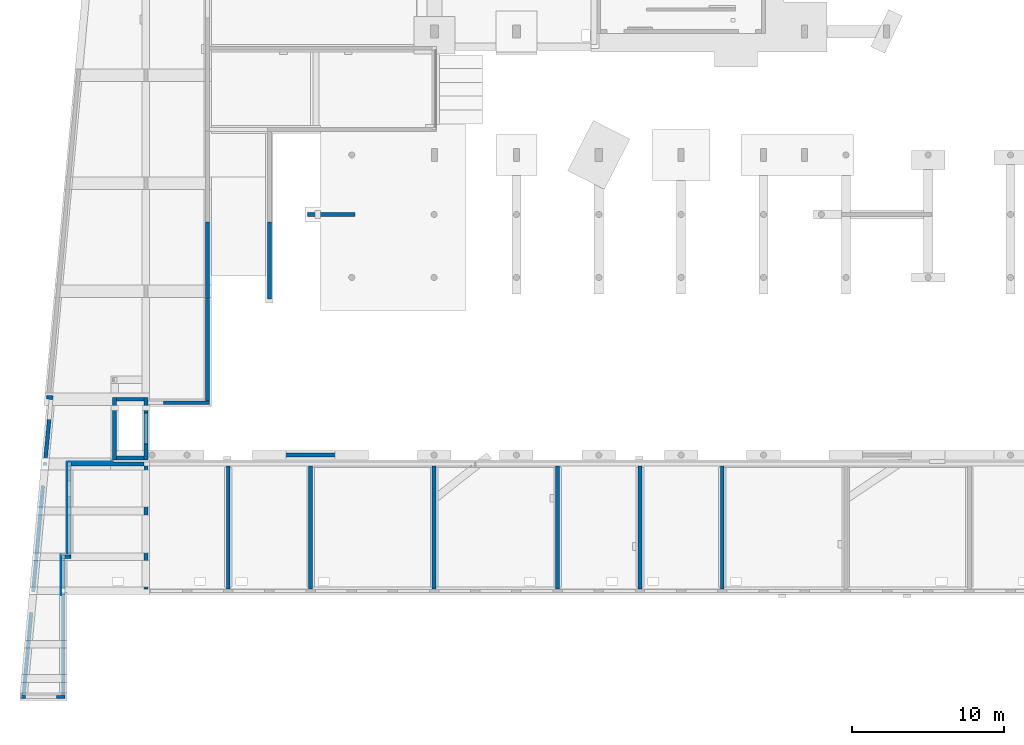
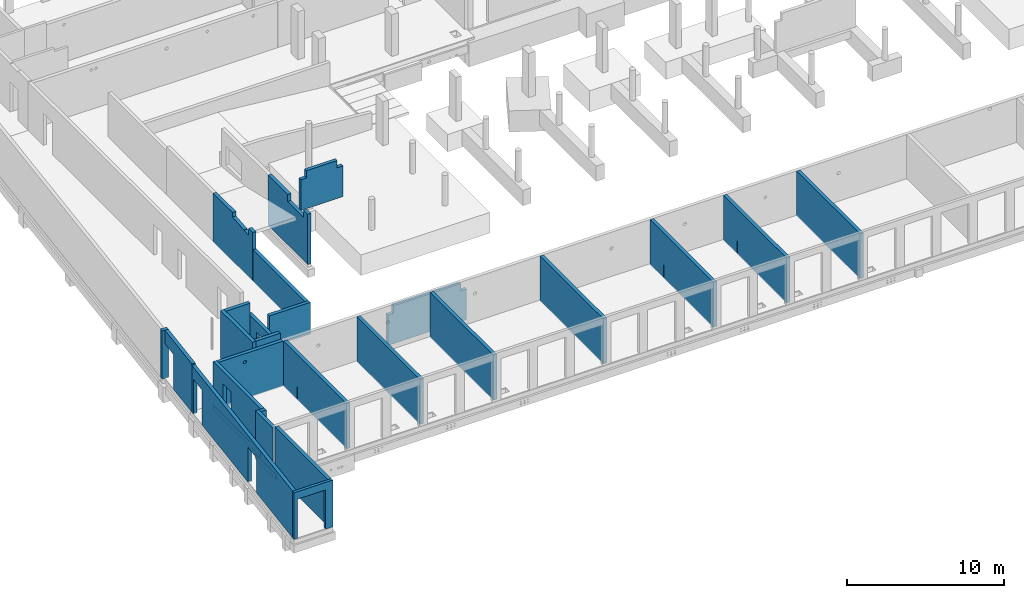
# One storey, part 38 of 60: 29 walls, 22 openings.
"""IFC2X3 building model written with IfcOpenShell, lengths in millimetres."""

from ifc_helpers import new_model, entity, si_unit, converted_unit, derived_unit, direction, frame, frame_2d, origin, place, context, subcontext, project, spatial, polyline, rectangle, circle, outline, extrude, material, layer, layer_set, layer_usage, type_object, element, save


model = new_model("IFC2X3")

# Units and contexts
model_context = context("Model", 3, precision=0.01, world=origin(), true_north=direction((6.12303176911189e-17, 1.0)))
body_context = subcontext(model_context, "Body", "Model", "MODEL_VIEW")
ifc_project = project(units=[si_unit("LENGTHUNIT", "METRE", prefix="MILLI"), si_unit("AREAUNIT", "SQUARE_METRE"), si_unit("VOLUMEUNIT", "CUBIC_METRE"), converted_unit("PLANEANGLEUNIT", "DEGREE", entity("IfcRatioMeasure", 0.0174532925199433), si_unit("PLANEANGLEUNIT", "RADIAN"), dimensions=[0, 0, 0, 0, 0, 0, 0]), si_unit("MASSUNIT", "GRAM", prefix="KILO"), derived_unit("MASSDENSITYUNIT", [(si_unit("MASSUNIT", "GRAM", prefix="KILO"), 1), (si_unit("LENGTHUNIT", "METRE"), -3)]), si_unit("TIMEUNIT", "SECOND"), si_unit("FREQUENCYUNIT", "HERTZ"), si_unit("THERMODYNAMICTEMPERATUREUNIT", "DEGREE_CELSIUS"), derived_unit("THERMALTRANSMITTANCEUNIT", [(si_unit("MASSUNIT", "GRAM", prefix="KILO"), 1), (si_unit("THERMODYNAMICTEMPERATUREUNIT", "KELVIN"), -1), (si_unit("TIMEUNIT", "SECOND"), -3)]), derived_unit("VOLUMETRICFLOWRATEUNIT", [(si_unit("LENGTHUNIT", "METRE"), 3), (si_unit("TIMEUNIT", "SECOND"), -1)]), si_unit("ELECTRICCURRENTUNIT", "AMPERE"), si_unit("ELECTRICVOLTAGEUNIT", "VOLT"), si_unit("POWERUNIT", "WATT"), si_unit("FORCEUNIT", "NEWTON", prefix="KILO"), si_unit("ILLUMINANCEUNIT", "LUX"), si_unit("LUMINOUSFLUXUNIT", "LUMEN"), si_unit("LUMINOUSINTENSITYUNIT", "CANDELA"), derived_unit("USERDEFINED", [(si_unit("MASSUNIT", "GRAM", prefix="KILO"), -1), (si_unit("LENGTHUNIT", "METRE"), -2), (si_unit("TIMEUNIT", "SECOND"), 3), (si_unit("LUMINOUSFLUXUNIT", "LUMEN"), 1)]), derived_unit("LINEARVELOCITYUNIT", [(si_unit("LENGTHUNIT", "METRE"), 1), (si_unit("TIMEUNIT", "SECOND"), -1)]), si_unit("PRESSUREUNIT", "PASCAL"), derived_unit("USERDEFINED", [(si_unit("LENGTHUNIT", "METRE"), -2), (si_unit("MASSUNIT", "GRAM", prefix="KILO"), 1), (si_unit("TIMEUNIT", "SECOND"), -2)])], contexts=[model_context])

# Site, building, storey
site_placement = place(None, origin())
site = spatial("IfcSite", under=ifc_project, at=site_placement, Name="Default", CompositionType="ELEMENT")
building_placement = place(site_placement, origin())
building = spatial("IfcBuilding", under=site, at=building_placement, Name="niet gebruiken", CompositionType="ELEMENT")
storey_placement = place(building_placement, origin())
storey = spatial("IfcBuildingStorey", under=building, at=storey_placement, Name="00 begane grond", CompositionType="ELEMENT", Elevation=0.0)

# Wall, opening
ifc_material_1 = material(Name="NLRS_f2_beton ihwg")
ifc_layer_1 = layer(ifc_material_1, 250.0)
ifc_layer_set_1 = layer_set([ifc_layer_1], Name="Basic Wall:NLRS_22.21_WA_beton ihwg d=250_gen")
ifc_layer_usage_1 = layer_usage(ifc_layer_set_1, "AXIS2", "NEGATIVE", 125.0)
wall_type_1 = type_object("IfcWallType", Name="Basic Wall:NLRS_22.21_WA_beton ihwg d=250_gen", PredefinedType="STANDARD", material=ifc_layer_set_1)
wall_1_placement = place(storey_placement, frame((8100.0, 8496.0, -160.0), z_axis=(0.0, 0.0, 1.0), x_axis=(0.0, -1.0, 0.0)))
wall_1 = element("IfcWallStandardCase", 1, at=wall_1_placement, inside=storey, type_object=wall_type_1, material=ifc_layer_usage_1, Name="Basic Wall:NLRS_22.21_WA_beton ihwg d=250_gen", ObjectType="Basic Wall:NLRS_22.21_WA_beton ihwg d=250_gen", context=body_context, shape_type="SweptSolid", body=[
    extrude(rectangle(XDim=8075.9999999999, YDim=249.999999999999, at=frame_2d((4037.99999999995, 0.0), x_axis=(-1.0, 0.0))), origin(), (0.0, 0.0, 1.0), 3510.00000000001),
])
opening_1_placement = place(wall_1_placement, origin())
element("IfcOpeningElement", 2, at=opening_1_placement, cuts=wall_1, Name="Basic Wall:NLRS_22.21_WA_beton ihwg d=250_gen", ObjectType="Recess", context=body_context, shape_type="SweptSolid", body=[
    extrude(rectangle(XDim=940.0, YDim=50.0000000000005, at=frame_2d((0.0, 5.41788836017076e-13), x_axis=(1.0, 0.0))), frame((1750.0, -125.0, 540.0), z_axis=(0.0, 1.0, 0.0), x_axis=(0.0, 0.0, -1.0)), (0.0, 0.0, 1.0), 40.0000000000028),
])

ifc_layer_usage_2 = layer_usage(ifc_layer_set_1, "AXIS2", "NEGATIVE", 125.0)
wall_2_placement = place(storey_placement, frame((3200.0, 8621.0, -160.0)))
wall_2 = element("IfcWallStandardCase", 3, at=wall_2_placement, inside=storey, type_object=wall_type_1, material=ifc_layer_usage_2, Name="Basic Wall:NLRS_22.21_WA_beton ihwg d=250_gen", ObjectType="Basic Wall:NLRS_22.21_WA_beton ihwg d=250_gen", context=body_context, shape_type="SweptSolid", body=[
    extrude(rectangle(XDim=4775.0, YDim=249.999999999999, at=frame_2d((2387.5, -1.06581410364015e-13), x_axis=(-1.0, 0.0))), origin(), (0.0, 0.0, 1.0), 3510.00000000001),
])
opening_2_placement = place(wall_2_placement, origin())
element("IfcOpeningElement", 4, at=opening_2_placement, cuts=wall_2, Name="Basic Wall:NLRS_22.21_WA_beton ihwg d=250_gen", ObjectType="Opening", context=body_context, shape_type="SweptSolid", body=[
    extrude(circle(Radius=125.0, at=frame_2d((0.0, -5.41433564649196e-13), x_axis=(1.0, 0.0))), frame((1940.0, -125.0, 2860.0), z_axis=(0.0, 1.0, 0.0), x_axis=(1.0, 0.0, 0.0)), (0.0, 0.0, 1.0), 249.999999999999),
])

ifc_layer_usage_3 = layer_usage(ifc_layer_set_1, "AXIS2", "NEGATIVE", 125.0)
wall_3_placement = place(storey_placement, frame((3075.0, 8746.0, -160.0), z_axis=(0.0, 0.0, 1.0), x_axis=(0.0, -1.0, 0.0)))
wall_3 = element("IfcWallStandardCase", 5, at=wall_3_placement, inside=storey, type_object=wall_type_1, material=ifc_layer_usage_3, Name="Basic Wall:NLRS_22.21_WA_beton ihwg d=250_gen", ObjectType="Basic Wall:NLRS_22.21_WA_beton ihwg d=250_gen", context=body_context, shape_type="SweptSolid", body=[
    extrude(rectangle(XDim=6086.00000000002, YDim=250.000000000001, at=frame_2d((3043.00000000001, -1.70530256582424e-13), x_axis=(-1.0, 0.0))), origin(), (0.0, 0.0, 1.0), 3510.00000000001),
])
opening_3_placement = place(wall_3_placement, origin())
element("IfcOpeningElement", 6, at=opening_3_placement, cuts=wall_3, Name="Basic Wall:NLRS_22.21_WA_beton ihwg d=250_gen", ObjectType="Opening", context=body_context, shape_type="SweptSolid", body=[
    extrude(rectangle(XDim=2470.0, YDim=1006.0, at=frame_2d((0.0, 5.40012479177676e-13), x_axis=(1.0, 0.0))), frame((1747.0, -1649.0, 1305.0), z_axis=(0.0, 1.0, 0.0), x_axis=(0.0, 0.0, 1.0)), (0.0, 0.0, 1.0), 3048.0),
])

# Walls
ifc_layer_usage_4 = layer_usage(ifc_layer_set_1, "AXIS2", "NEGATIVE", 125.0)
wall_4_placement = place(storey_placement, frame((3200.0, 2535.0, -160.0), z_axis=(0.0, 0.0, 1.0), x_axis=(-1.0, 0.0, 0.0)))
element("IfcWallStandardCase", 7, at=wall_4_placement, inside=storey, type_object=wall_type_1, material=ifc_layer_usage_4, Name="Basic Wall:NLRS_22.21_WA_beton ihwg d=250_gen", ObjectType="Basic Wall:NLRS_22.21_WA_beton ihwg d=250_gen", context=body_context, shape_type="SweptSolid", body=[
    extrude(rectangle(XDim=399.99999999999, YDim=249.999999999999, at=frame_2d((199.999999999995, 2.8421709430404e-14), x_axis=(-1.0, 0.0))), origin(), (0.0, 0.0, 1.0), 3510.00000000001),
])
ifc_layer_usage_5 = layer_usage(ifc_layer_set_1, "AXIS2", "NEGATIVE", 125.0)
wall_5_placement = place(storey_placement, frame((2675.0, 2660.0, -160.0), z_axis=(0.0, 0.0, 1.0), x_axis=(0.0, -1.0, 0.0)))
element("IfcWallStandardCase", 8, at=wall_5_placement, inside=storey, type_object=wall_type_1, material=ifc_layer_usage_5, Name="Basic Wall:NLRS_22.21_WA_beton ihwg d=250_gen", ObjectType="Basic Wall:NLRS_22.21_WA_beton ihwg d=250_gen", context=body_context, shape_type="SweptSolid", body=[
    extrude(rectangle(XDim=2239.99999999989, YDim=249.999999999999, at=frame_2d((1119.99999999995, 4.9737991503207e-14), x_axis=(-1.0, 0.0))), origin(), (0.0, 0.0, 1.0), 3510.00000000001),
])

# Wall, openings
ifc_layer_usage_6 = layer_usage(ifc_layer_set_1, "AXIS2", "NEGATIVE", 125.0)
wall_6_placement = place(storey_placement, frame((13500.0, 8496.0, -160.0), z_axis=(0.0, 0.0, 1.0), x_axis=(0.0, -1.0, 0.0)))
wall_6 = element("IfcWallStandardCase", 9, at=wall_6_placement, inside=storey, type_object=wall_type_1, material=ifc_layer_usage_6, Name="Basic Wall:NLRS_22.21_WA_beton ihwg d=250_gen", ObjectType="Basic Wall:NLRS_22.21_WA_beton ihwg d=250_gen", context=body_context, shape_type="SweptSolid", body=[
    extrude(rectangle(XDim=8075.99999999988, YDim=249.999999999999, at=frame_2d((4037.99999999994, 0.0), x_axis=(-1.0, 0.0))), origin(), (0.0, 0.0, 1.0), 3510.00000000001),
])
opening_4_placement = place(wall_6_placement, origin())
element("IfcOpeningElement", 10, at=opening_4_placement, cuts=wall_6, Name="Basic Wall:NLRS_22.21_WA_beton ihwg d=250_gen", ObjectType="Recess", context=body_context, shape_type="SweptSolid", body=[
    extrude(rectangle(XDim=940.0, YDim=50.0000000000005, at=frame_2d((0.0, 5.41788836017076e-13), x_axis=(1.0, 0.0))), frame((1550.0, 85.0, 540.0), z_axis=(0.0, 1.0, 0.0), x_axis=(0.0, 0.0, -1.0)), (0.0, 0.0, 1.0), 40.0000000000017),
])
opening_5_placement = place(wall_6_placement, origin())
element("IfcOpeningElement", 11, at=opening_5_placement, cuts=wall_6, Name="Basic Wall:NLRS_22.21_WA_beton ihwg d=250_gen", ObjectType="Recess", context=body_context, shape_type="SweptSolid", body=[
    extrude(rectangle(XDim=940.0, YDim=50.0000000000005, at=frame_2d((0.0, 5.41788836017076e-13), x_axis=(1.0, 0.0))), frame((1750.0, -125.0, 540.0), z_axis=(0.0, 1.0, 0.0), x_axis=(0.0, 0.0, -1.0)), (0.0, 0.0, 1.0), 40.0000000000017),
])

# Wall, opening
ifc_layer_usage_7 = layer_usage(ifc_layer_set_1, "AXIS2", "NEGATIVE", 125.0)
wall_7_placement = place(storey_placement, frame((18900.0, 8496.0, -160.0), z_axis=(0.0, 0.0, 1.0), x_axis=(0.0, -1.0, 0.0)))
wall_7 = element("IfcWallStandardCase", 12, at=wall_7_placement, inside=storey, type_object=wall_type_1, material=ifc_layer_usage_7, Name="Basic Wall:NLRS_22.21_WA_beton ihwg d=250_gen", ObjectType="Basic Wall:NLRS_22.21_WA_beton ihwg d=250_gen", context=body_context, shape_type="SweptSolid", body=[
    extrude(rectangle(XDim=8075.99999999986, YDim=249.999999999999, at=frame_2d((4037.99999999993, 0.0), x_axis=(-1.0, 0.0))), origin(), (0.0, 0.0, 1.0), 3510.00000000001),
])
opening_6_placement = place(wall_7_placement, origin())
element("IfcOpeningElement", 13, at=opening_6_placement, cuts=wall_7, Name="Basic Wall:NLRS_22.21_WA_beton ihwg d=250_gen", ObjectType="Recess", context=body_context, shape_type="SweptSolid", body=[
    extrude(rectangle(XDim=940.0, YDim=50.0000000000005, at=frame_2d((0.0, 5.41788836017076e-13), x_axis=(1.0, 0.0))), frame((1550.0, 85.0, 540.0), z_axis=(0.0, 1.0, 0.0), x_axis=(0.0, 0.0, -1.0)), (0.0, 0.0, 1.0), 40.0000000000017),
])

# Wall
ifc_layer_usage_8 = layer_usage(ifc_layer_set_1, "AXIS2", "NEGATIVE", 125.0)
wall_8_placement = place(storey_placement, frame((27000.0, 8496.0, -160.0), z_axis=(0.0, 0.0, 1.0), x_axis=(0.0, -1.0, 0.0)))
element("IfcWallStandardCase", 14, at=wall_8_placement, inside=storey, type_object=wall_type_1, material=ifc_layer_usage_8, Name="Basic Wall:NLRS_22.21_WA_beton ihwg d=250_gen", ObjectType="Basic Wall:NLRS_22.21_WA_beton ihwg d=250_gen", context=body_context, shape_type="SweptSolid", body=[
    extrude(rectangle(XDim=8075.99999999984, YDim=250.000000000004, at=frame_2d((4037.99999999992, 0.0), x_axis=(-1.0, 0.0))), origin(), (0.0, 0.0, 1.0), 3510.00000000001),
])

# Wall, opening
ifc_layer_usage_9 = layer_usage(ifc_layer_set_1, "AXIS2", "NEGATIVE", 125.0)
wall_9_placement = place(storey_placement, frame((35100.0, 8496.0, -160.0), z_axis=(0.0, 0.0, 1.0), x_axis=(0.0, -1.0, 0.0)))
wall_9 = element("IfcWallStandardCase", 15, at=wall_9_placement, inside=storey, type_object=wall_type_1, material=ifc_layer_usage_9, Name="Basic Wall:NLRS_22.21_WA_beton ihwg d=250_gen", ObjectType="Basic Wall:NLRS_22.21_WA_beton ihwg d=250_gen", context=body_context, shape_type="SweptSolid", body=[
    extrude(rectangle(XDim=8075.99999999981, YDim=250.000000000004, at=frame_2d((4037.99999999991, 0.0), x_axis=(-1.0, 0.0))), origin(), (0.0, 0.0, 1.0), 3510.00000000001),
])
opening_7_placement = place(wall_9_placement, origin())
element("IfcOpeningElement", 16, at=opening_7_placement, cuts=wall_9, Name="Basic Wall:NLRS_22.21_WA_beton ihwg d=250_gen", ObjectType="Recess", context=body_context, shape_type="SweptSolid", body=[
    extrude(rectangle(XDim=940.0, YDim=50.0000000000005, at=frame_2d((0.0, 5.41788836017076e-13), x_axis=(1.0, 0.0))), frame((1750.0, -125.0, 540.0), z_axis=(0.0, 1.0, 0.0), x_axis=(0.0, 0.0, -1.0)), (0.0, 0.0, 1.0), 39.9999999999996),
])

# Wall, openings
ifc_layer_usage_10 = layer_usage(ifc_layer_set_1, "AXIS2", "NEGATIVE", 125.0)
wall_10_placement = place(storey_placement, frame((40500.0, 8496.0, -160.0), z_axis=(0.0, 0.0, 1.0), x_axis=(0.0, -1.0, 0.0)))
wall_10 = element("IfcWallStandardCase", 17, at=wall_10_placement, inside=storey, type_object=wall_type_1, material=ifc_layer_usage_10, Name="Basic Wall:NLRS_22.21_WA_beton ihwg d=250_gen", ObjectType="Basic Wall:NLRS_22.21_WA_beton ihwg d=250_gen", context=body_context, shape_type="SweptSolid", body=[
    extrude(rectangle(XDim=8075.99999999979, YDim=249.999999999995, at=frame_2d((4037.9999999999, 0.0), x_axis=(-1.0, 0.0))), origin(), (0.0, 0.0, 1.0), 3510.00000000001),
])
opening_8_placement = place(wall_10_placement, origin())
element("IfcOpeningElement", 18, at=opening_8_placement, cuts=wall_10, Name="Basic Wall:NLRS_22.21_WA_beton ihwg d=250_gen", ObjectType="Recess", context=body_context, shape_type="SweptSolid", body=[
    extrude(rectangle(XDim=940.0, YDim=50.0000000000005, at=frame_2d((0.0, 5.41788836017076e-13), x_axis=(1.0, 0.0))), frame((1750.0, -125.0, 540.0), z_axis=(0.0, 1.0, 0.0), x_axis=(0.0, 0.0, -1.0)), (0.0, 0.0, 1.0), 40.0000000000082),
])
opening_9_placement = place(wall_10_placement, origin())
element("IfcOpeningElement", 19, at=opening_9_placement, cuts=wall_10, Name="Basic Wall:NLRS_22.21_WA_beton ihwg d=250_gen", ObjectType="Recess", context=body_context, shape_type="SweptSolid", body=[
    extrude(rectangle(XDim=940.0, YDim=50.0000000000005, at=frame_2d((0.0, 5.41788836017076e-13), x_axis=(1.0, 0.0))), frame((1550.0, 85.0, 540.0), z_axis=(0.0, 1.0, 0.0), x_axis=(0.0, 0.0, -1.0)), (0.0, 0.0, 1.0), 40.0000000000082),
])

# Wall, opening
ifc_layer_usage_11 = layer_usage(ifc_layer_set_1, "AXIS2", "NEGATIVE", 125.0)
wall_11_placement = place(storey_placement, frame((45900.0, 8496.0, -160.0), z_axis=(0.0, 0.0, 1.0), x_axis=(0.0, -1.0, 0.0)))
wall_11 = element("IfcWallStandardCase", 20, at=wall_11_placement, inside=storey, type_object=wall_type_1, material=ifc_layer_usage_11, Name="Basic Wall:NLRS_22.21_WA_beton ihwg d=250_gen", ObjectType="Basic Wall:NLRS_22.21_WA_beton ihwg d=250_gen", context=body_context, shape_type="SweptSolid", body=[
    extrude(rectangle(XDim=8075.99999999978, YDim=249.999999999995, at=frame_2d((4037.99999999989, 0.0), x_axis=(-1.0, 0.0))), origin(), (0.0, 0.0, 1.0), 3510.00000000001),
])
opening_10_placement = place(wall_11_placement, origin())
element("IfcOpeningElement", 21, at=opening_10_placement, cuts=wall_11, Name="Basic Wall:NLRS_22.21_WA_beton ihwg d=250_gen", ObjectType="Recess", context=body_context, shape_type="SweptSolid", body=[
    extrude(rectangle(XDim=940.0, YDim=50.0000000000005, at=frame_2d((0.0, 5.41788836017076e-13), x_axis=(1.0, 0.0))), frame((1550.0, 85.0, 540.0), z_axis=(0.0, 1.0, 0.0), x_axis=(0.0, 0.0, -1.0)), (0.0, 0.0, 1.0), 40.0000000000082),
])

# Wall
ifc_material_2 = material(Name="NLRS_f2_beton prefab")
ifc_layer_2 = layer(ifc_material_2, 250.0)
ifc_layer_set_2 = layer_set([ifc_layer_2], Name="Basic Wall:NLRS_21.21_WA_beton prefab d=250_gen")
ifc_layer_usage_12 = layer_usage(ifc_layer_set_2, "AXIS2", "NEGATIVE", 125.0)
wall_type_2 = type_object("IfcWallType", Name="Basic Wall:NLRS_21.21_WA_beton prefab d=250_gen", PredefinedType="STANDARD", material=ifc_layer_set_2)
wall_12_placement = place(storey_placement, frame((2675.0, 200.0, -40.0), z_axis=(0.0, 0.0, 1.0), x_axis=(0.0, -1.0, 0.0)))
element("IfcWallStandardCase", 22, at=wall_12_placement, inside=storey, type_object=wall_type_2, material=ifc_layer_usage_12, Name="Basic Wall:NLRS_21.21_WA_beton prefab d=250_gen", ObjectType="Basic Wall:NLRS_21.21_WA_beton prefab d=250_gen", context=body_context, shape_type="SweptSolid", body=[
    extrude(rectangle(XDim=6780.0, YDim=249.999999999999, at=frame_2d((3390.0, 9.9475983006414e-14), x_axis=(-1.0, 0.0))), origin(), (0.0, 0.0, 1.0), 3639.99999999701),
])

# Wall, opening
ifc_layer_usage_13 = layer_usage(ifc_layer_set_2, "AXIS2", "NEGATIVE", 125.0)
wall_13_placement = place(storey_placement, frame((1880.38498072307, 12844.4626619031, -40.0), z_axis=(0.0, 0.0, 1.0), x_axis=(-0.0922987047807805, -0.995731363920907, 0.0)))
wall_13 = element("IfcWallStandardCase", 23, at=wall_13_placement, inside=storey, type_object=wall_type_2, material=ifc_layer_usage_13, Name="Basic Wall:NLRS_21.21_WA_beton prefab d=250_gen", ObjectType="Basic Wall:NLRS_21.21_WA_beton prefab d=250_gen", context=body_context, shape_type="SweptSolid", body=[
    extrude(rectangle(XDim=4127.61930468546, YDim=250.0, at=frame_2d((2063.80965234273, 1.4210854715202e-13), x_axis=(-1.0, 0.0))), origin(), (0.0, 0.0, 1.0), 3760.00000000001),
])
opening_11_placement = place(wall_13_placement, origin())
element("IfcOpeningElement", 24, at=opening_11_placement, cuts=wall_13, Name="Basic Wall:NLRS_21.21_WA_beton prefab d=250_gen", ObjectType="Opening", context=body_context, shape_type="SweptSolid", body=[
    extrude(rectangle(XDim=2720.0, YDim=1330.0, at=frame_2d((1.08002495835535e-12, 0.0), x_axis=(0.0, 1.0))), frame((661.500000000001, -1399.0, 1360.0), z_axis=(0.0, 1.0, 0.0), x_axis=(-1.0, 0.0, 0.0)), (0.0, 0.0, 1.0), 3048.0),
])

# Wall, openings
ifc_layer_usage_14 = layer_usage(ifc_layer_set_2, "AXIS2", "NEGATIVE", 125.0)
wall_14_placement = place(storey_placement, frame((1499.41106507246, 8734.46266190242, -40.0), z_axis=(0.0, 0.0, 1.0), x_axis=(-0.0922987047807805, -0.995731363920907, 0.0)))
wall_14 = element("IfcWallStandardCase", 25, at=wall_14_placement, inside=storey, type_object=wall_type_2, material=ifc_layer_usage_14, Name="Basic Wall:NLRS_21.21_WA_beton prefab d=250_gen", ObjectType="Basic Wall:NLRS_21.21_WA_beton prefab d=250_gen", context=body_context, shape_type="SweptSolid", body=[
    extrude(outline(polyline([(0.0, -125.0), (15391.7015726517, -125.0), (15368.5279768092, 125.0), (0.0, 125.0), (0.0, -125.0)])), origin(), (0.0, 0.0, 1.0), 3640.0),
])
opening_12_placement = place(wall_14_placement, origin())
element("IfcOpeningElement", 26, at=opening_12_placement, cuts=wall_14, Name="Basic Wall:NLRS_21.21_WA_beton prefab d=250_gen", ObjectType="Opening", context=body_context, shape_type="SweptSolid", body=[
    extrude(rectangle(XDim=2720.0, YDim=1330.0, at=frame_2d((0.0, 0.0), x_axis=(0.0, 1.0))), frame((9223.94610375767, -1399.0, 1360.0), z_axis=(0.0, 1.0, 0.0), x_axis=(-1.0, 0.0, 0.0)), (0.0, 0.0, 1.0), 3048.0),
])
opening_13_placement = place(wall_14_placement, origin())
element("IfcOpeningElement", 27, at=opening_13_placement, cuts=wall_14, Name="Basic Wall:NLRS_21.21_WA_beton prefab d=250_gen", ObjectType="Opening", context=body_context, shape_type="SweptSolid", body=[
    extrude(rectangle(XDim=2720.0, YDim=1330.0, at=frame_2d((0.0, 0.0), x_axis=(0.0, 1.0))), frame((883.946103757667, -1399.0, 1360.0), z_axis=(0.0, 1.0, 0.0), x_axis=(-1.0, 0.0, 0.0)), (0.0, 0.0, 1.0), 3048.0),
])

# Walls
ifc_layer_usage_15 = layer_usage(ifc_layer_set_2, "AXIS2", "NEGATIVE", 125.0)
wall_15_placement = place(storey_placement, frame((6175.0, 12861.0, -372.0)))
element("IfcWallStandardCase", 28, at=wall_15_placement, inside=storey, type_object=wall_type_2, material=ifc_layer_usage_15, Name="Basic Wall:NLRS_21.21_WA_beton prefab d=250_gen", ObjectType="Basic Wall:NLRS_21.21_WA_beton prefab d=250_gen", context=body_context, shape_type="SweptSolid", body=[
    extrude(rectangle(XDim=1800.0, YDim=249.999999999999, at=frame_2d((900.0, 0.0), x_axis=(-1.0, 0.0))), origin(), (0.0, 0.0, 1.0), 4092.00000000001),
])
ifc_layer_usage_16 = layer_usage(ifc_layer_set_2, "AXIS2", "NEGATIVE", 125.0)
wall_16_placement = place(storey_placement, frame((7975.0, 9011.0, -372.0), z_axis=(0.0, 0.0, 1.0), x_axis=(-1.0, 0.0, 0.0)))
element("IfcWallStandardCase", 29, at=wall_16_placement, inside=storey, type_object=wall_type_2, material=ifc_layer_usage_16, Name="Basic Wall:NLRS_21.21_WA_beton prefab d=250_gen", ObjectType="Basic Wall:NLRS_21.21_WA_beton prefab d=250_gen", context=body_context, shape_type="SweptSolid", body=[
    extrude(rectangle(XDim=1800.0, YDim=249.999999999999, at=frame_2d((900.0, 0.0), x_axis=(-1.0, 0.0))), origin(), (0.0, 0.0, 1.0), 4092.00000000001),
])
ifc_layer_usage_17 = layer_usage(ifc_layer_set_2, "AXIS2", "NEGATIVE", 125.0)
wall_17_placement = place(storey_placement, frame((1588.54729829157, 13000.5652471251, -40.0), z_axis=(0.0, 0.0, 1.0), x_axis=(0.995731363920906, -0.0922987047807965, 0.0)))
element("IfcWallStandardCase", 30, at=wall_17_placement, inside=storey, type_object=wall_type_2, material=ifc_layer_usage_17, Name="Basic Wall:NLRS_21.21_WA_beton prefab d=250_gen", ObjectType="Basic Wall:NLRS_21.21_WA_beton prefab d=250_gen", context=body_context, shape_type="SweptSolid", body=[
    extrude(rectangle(XDim=430.000000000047, YDim=250.000000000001, at=frame_2d((215.000000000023, 7.8159700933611e-14), x_axis=(-1.0, 0.0))), origin(), (0.0, 0.0, 1.0), 3759.99999999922),
])

# Wall, opening
ifc_layer_3 = layer(ifc_material_2, 200.0)
ifc_layer_set_3 = layer_set([ifc_layer_3], Name="Basic Wall:NLRS_21.21_WA_beton prefab d=200_gen")
ifc_layer_usage_18 = layer_usage(ifc_layer_set_3, "AXIS2", "NEGATIVE", 100.0)
wall_type_3 = type_object("IfcWallType", Name="Basic Wall:NLRS_21.21_WA_beton prefab d=200_gen", PredefinedType="STANDARD", material=ifc_layer_set_3)
wall_18_placement = place(storey_placement, frame((-64.2283516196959, -6680.0, -40.0)))
wall_18 = element("IfcWallStandardCase", 31, at=wall_18_placement, inside=storey, type_object=wall_type_3, material=ifc_layer_usage_18, Name="Basic Wall:NLRS_21.21_WA_beton prefab d=200_gen", ObjectType="Basic Wall:NLRS_21.21_WA_beton prefab d=200_gen", context=body_context, shape_type="SweptSolid", body=[
    extrude(outline(polyline([(0.0, -100.0), (2864.22835161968, -100.0), (2864.22835161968, 100.0), (2614.22835161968, 100.0), (269.610610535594, 100.0), (18.5388766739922, 100.0), (0.0, -100.0)])), origin(), (0.0, 0.0, 1.0), 3640.0),
])
opening_14_placement = place(wall_18_placement, origin())
element("IfcOpeningElement", 32, at=opening_14_placement, cuts=wall_18, Name="Basic Wall:NLRS_21.21_WA_beton prefab d=200_gen", ObjectType="Opening", context=body_context, shape_type="SweptSolid", body=[
    extrude(rectangle(XDim=3110.0, YDim=2050.0, at=frame_2d((0.0, 2.27373675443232e-13), x_axis=(0.0, 1.0))), frame((1293.8241941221, -1424.0, 1505.0), z_axis=(0.0, 1.0, 0.0), x_axis=(-1.0, 0.0, 0.0)), (0.0, 0.0, 1.0), 3048.0),
])

# Wall
ifc_layer_4 = layer(ifc_material_2, 250.0)
ifc_layer_set_4 = layer_set([ifc_layer_4], Name="Basic Wall:NLRS_22.21_WA_beton prefab d=250_gen")
ifc_layer_usage_19 = layer_usage(ifc_layer_set_4, "AXIS2", "NEGATIVE", 125.0)
wall_type_4 = type_object("IfcWallType", Name="Basic Wall:NLRS_22.21_WA_beton prefab d=250_gen", PredefinedType="STANDARD", material=ifc_layer_set_4)
wall_19_placement = place(storey_placement, frame((6050.0, 8886.0, -372.0), z_axis=(0.0, 0.0, 1.0), x_axis=(0.0, 1.0, 0.0)))
element("IfcWallStandardCase", 33, at=wall_19_placement, inside=storey, type_object=wall_type_4, material=ifc_layer_usage_19, Name="Basic Wall:NLRS_22.21_WA_beton prefab d=250_gen", ObjectType="Basic Wall:NLRS_22.21_WA_beton prefab d=250_gen", context=body_context, shape_type="SweptSolid", body=[
    extrude(rectangle(XDim=4100.0, YDim=249.999999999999, at=frame_2d((2050.0, 0.0), x_axis=(-1.0, 0.0))), origin(), (0.0, 0.0, 1.0), 4091.99999999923),
])

# Wall, openings
ifc_layer_usage_20 = layer_usage(ifc_layer_set_4, "AXIS2", "NEGATIVE", 125.0)
wall_20_placement = place(storey_placement, frame((8100.0, 12986.0, -372.0), z_axis=(0.0, 0.0, 1.0), x_axis=(0.0, -1.0, 0.0)))
wall_20 = element("IfcWallStandardCase", 34, at=wall_20_placement, inside=storey, type_object=wall_type_4, material=ifc_layer_usage_20, Name="Basic Wall:NLRS_22.21_WA_beton prefab d=250_gen", ObjectType="Basic Wall:NLRS_22.21_WA_beton prefab d=250_gen", context=body_context, shape_type="SweptSolid", body=[
    extrude(rectangle(XDim=4100.0, YDim=249.999999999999, at=frame_2d((2050.0, 0.0), x_axis=(-1.0, 0.0))), origin(), (0.0, 0.0, 1.0), 3142.00000000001),
])
opening_15_placement = place(wall_20_placement, origin())
element("IfcOpeningElement", 35, at=opening_15_placement, cuts=wall_20, Name="Basic Wall:NLRS_22.21_WA_beton prefab d=250_gen", ObjectType="Opening", context=body_context, shape_type="SweptSolid", body=[
    extrude(rectangle(XDim=1960.0, YDim=2050.0, at=frame_2d((0.0, -1.13686837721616e-12), x_axis=(1.0, 0.0))), frame((2050.0, -1649.0, 1352.0), z_axis=(0.0, 1.0, 0.0), x_axis=(0.0, 0.0, 1.0)), (0.0, 0.0, 1.0), 3048.0),
])
opening_16_placement = place(wall_20_placement, origin())
element("IfcOpeningElement", 36, at=opening_16_placement, cuts=wall_20, Name="Basic Wall:NLRS_22.21_WA_beton prefab d=250_gen", ObjectType="Opening", context=body_context, shape_type="SweptSolid", body=[
    extrude(rectangle(XDim=2486.0, YDim=249.999999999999, at=frame_2d((0.0, 0.0), x_axis=(0.0, 1.0))), frame((355.0, 124.932012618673, 1545.0), z_axis=(0.0, 1.0, 0.0), x_axis=(1.0, 0.0, 0.0)), (0.0, 0.0, 1.0), 1025.0),
])

# Wall
ifc_layer_usage_21 = layer_usage(ifc_layer_set_4, "AXIS2", "NEGATIVE", 125.0)
wall_21_placement = place(storey_placement, frame((9249.93201261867, 12631.0, -40.0)))
element("IfcWallStandardCase", 37, at=wall_21_placement, inside=storey, type_object=wall_type_4, material=ifc_layer_usage_21, Name="Basic Wall:NLRS_22.21_WA_beton prefab d=250_gen", ObjectType="Basic Wall:NLRS_22.21_WA_beton prefab d=250_gen", context=body_context, shape_type="SweptSolid", body=[
    extrude(rectangle(XDim=3025.06798738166, YDim=249.999999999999, at=frame_2d((252.506798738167, 25.0000000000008), x_axis=(1.0, 0.0))), frame((1765.040792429, 25.0, 0.0), z_axis=(0.0, 0.0, 1.0), x_axis=(-1.0, 0.0, 0.0)), (0.0, 0.0, 1.0), 2455.00000000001),
])

# Wall, opening
ifc_layer_usage_22 = layer_usage(ifc_layer_set_4, "AXIS2", "NEGATIVE", 125.0)
wall_22_placement = place(storey_placement, frame((12150.0, 24481.0, -40.0), z_axis=(0.0, 0.0, 1.0), x_axis=(0.0, -1.0, 0.0)))
wall_22 = element("IfcWallStandardCase", 38, at=wall_22_placement, inside=storey, type_object=wall_type_4, material=ifc_layer_usage_22, Name="Basic Wall:NLRS_22.21_WA_beton prefab d=250_gen", ObjectType="Basic Wall:NLRS_22.21_WA_beton prefab d=250_gen", context=body_context, shape_type="SweptSolid", body=[
    extrude(rectangle(XDim=5055.0, YDim=249.999999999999, at=frame_2d((2527.5, -3.48165940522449e-13), x_axis=(-1.0, 0.0))), origin(), (0.0, 0.0, 1.0), 3780.00000000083),
])
opening_17_placement = place(wall_22_placement, origin())
element("IfcOpeningElement", 39, at=opening_17_placement, cuts=wall_22, Name="Basic Wall:NLRS_22.21_WA_beton prefab d=250_gen", ObjectType="Opening", context=body_context, shape_type="SweptSolid", body=[
    extrude(outline(polyline([(-815.420108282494, 337.008216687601), (-815.420108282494, -201.135257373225), (-379.439855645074, -159.915306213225), (-219.43985561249, -159.915306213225), (-219.43985561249, -144.788033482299), (1224.57989171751, -8.26253009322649), (1224.57989171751, 337.008216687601), (-815.420108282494, 337.008216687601)])), frame((3709.57989171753, 125.0, 3442.99178331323), z_axis=(0.0, 1.0, 0.0), x_axis=(-1.0, 0.0, 0.0)), (0.0, 0.0, -1.0), 250.0),
])

ifc_layer_usage_23 = layer_usage(ifc_layer_set_4, "AXIS2", "NEGATIVE", 125.0)
wall_23_placement = place(storey_placement, frame((16200.0, 24471.0, -170.0), z_axis=(0.0, 0.0, 1.0), x_axis=(0.0, -1.0, 0.0)))
wall_23 = element("IfcWallStandardCase", 40, at=wall_23_placement, inside=storey, type_object=wall_type_4, material=ifc_layer_usage_23, Name="Basic Wall:NLRS_22.21_WA_beton prefab d=250_gen", ObjectType="Basic Wall:NLRS_22.21_WA_beton prefab d=250_gen", context=body_context, shape_type="SweptSolid", body=[
    extrude(rectangle(XDim=5045.0, YDim=249.999999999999, at=frame_2d((2522.5, 0.0), x_axis=(-1.0, 0.0))), origin(), (0.0, 0.0, 1.0), 3910.00000000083),
])
opening_18_placement = place(wall_23_placement, origin())
element("IfcOpeningElement", 41, at=opening_18_placement, cuts=wall_23, Name="Basic Wall:NLRS_22.21_WA_beton prefab d=250_gen", ObjectType="Opening", context=body_context, shape_type="SweptSolid", body=[
    extrude(rectangle(XDim=1500.0, YDim=2000.0, at=frame_2d((2.8421709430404e-13, -2.1600499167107e-12), x_axis=(1.0, 0.0))), frame((3495.0, -1649.0, 4120.0), z_axis=(0.0, 1.0, 0.0), x_axis=(0.0, 0.0, 1.0)), (0.0, 0.0, 1.0), 3048.0),
])

# Wall
ifc_layer_usage_24 = layer_usage(ifc_layer_set_4, "AXIS2", "NEGATIVE", 125.0)
wall_24_placement = place(storey_placement, frame((12150.0, 19406.0, -40.0), z_axis=(0.0, 0.0, 1.0), x_axis=(0.0, -1.0, 0.0)))
element("IfcWallStandardCase", 42, at=wall_24_placement, inside=storey, type_object=wall_type_4, material=ifc_layer_usage_24, Name="Basic Wall:NLRS_22.21_WA_beton prefab d=250_gen", ObjectType="Basic Wall:NLRS_22.21_WA_beton prefab d=250_gen", context=body_context, shape_type="SweptSolid", body=[
    extrude(rectangle(XDim=6650.00000000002, YDim=249.999999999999, at=frame_2d((3325.00000000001, -1.06581410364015e-13), x_axis=(-1.0, 0.0))), origin(), (0.0, 0.0, 1.0), 2455.0),
])

# Wall, openings
ifc_layer_5 = layer(ifc_material_2, 250.0)
ifc_layer_set_5 = layer_set([ifc_layer_5], Name="Basic Wall:NLRS_16.21_WA_beton prefab d=250_gen")
ifc_layer_usage_25 = layer_usage(ifc_layer_set_5, "AXIS2", "NEGATIVE", 125.0)
wall_type_5 = type_object("IfcWallType", Name="Basic Wall:NLRS_16.21_WA_beton prefab d=250_gen", PredefinedType="STANDARD", material=ifc_layer_set_5)
wall_25_placement = place(storey_placement, frame((18700.0, 24976.0, -170.0)))
wall_25 = element("IfcWallStandardCase", 43, at=wall_25_placement, inside=storey, type_object=wall_type_5, material=ifc_layer_usage_25, Name="Basic Wall:NLRS_16.21_WA_beton prefab d=250_gen", ObjectType="Basic Wall:NLRS_16.21_WA_beton prefab d=250_gen", context=body_context, shape_type="SweptSolid", body=[
    extrude(rectangle(XDim=3100.0, YDim=250.000000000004, at=frame_2d((1550.0, -1.84741111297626e-13), x_axis=(-1.0, 0.0))), origin(), (0.0, 0.0, 1.0), 2950.00000000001),
])
opening_19_placement = place(wall_25_placement, origin())
element("IfcOpeningElement", 44, at=opening_19_placement, cuts=wall_25, Name="Basic Wall:NLRS_16.21_WA_beton prefab d=250_gen", ObjectType="Opening", context=body_context, shape_type="SweptSolid", body=[
    extrude(rectangle(XDim=560.0, YDim=420.0, at=frame_2d((1.4210854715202e-13, 0.0), x_axis=(1.0, 0.0))), frame((2890.0, 125.0, 2670.0), z_axis=(0.0, -1.0, 0.0), x_axis=(0.0, 0.0, 1.0)), (0.0, 0.0, 1.0), 250.0),
])
opening_20_placement = place(wall_25_placement, origin())
element("IfcOpeningElement", 45, at=opening_20_placement, cuts=wall_25, Name="Basic Wall:NLRS_16.21_WA_beton prefab d=250_gen", ObjectType="Opening", context=body_context, shape_type="SweptSolid", body=[
    extrude(rectangle(XDim=560.0, YDim=419.999999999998, at=frame_2d((-1.09423581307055e-12, -1.4210854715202e-13), x_axis=(0.0, 1.0))), frame((210.0, 125.0, 2670.0), z_axis=(0.0, -1.0, 0.0), x_axis=(-1.0, 0.0, 0.0)), (0.0, 0.0, 1.0), 250.0),
])

ifc_layer_usage_26 = layer_usage(ifc_layer_set_5, "AXIS2", "NEGATIVE", 125.0)
wall_26_placement = place(storey_placement, frame((16000.0, 9196.0, -170.0)))
wall_26 = element("IfcWallStandardCase", 46, at=wall_26_placement, inside=storey, type_object=wall_type_5, material=ifc_layer_usage_26, Name="Basic Wall:NLRS_16.21_WA_beton prefab d=250_gen", ObjectType="Basic Wall:NLRS_16.21_WA_beton prefab d=250_gen", context=body_context, shape_type="SweptSolid", body=[
    extrude(rectangle(XDim=5799.99999999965, YDim=249.999999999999, at=frame_2d((2899.99999999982, -1.13686837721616e-13), x_axis=(-1.0, 0.0))), origin(), (0.0, 0.0, 1.0), 2950.00000000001),
])
opening_21_placement = place(wall_26_placement, origin())
element("IfcOpeningElement", 47, at=opening_21_placement, cuts=wall_26, Name="Basic Wall:NLRS_16.21_WA_beton prefab d=250_gen", ObjectType="Opening", context=body_context, shape_type="SweptSolid", body=[
    extrude(rectangle(XDim=580.00000000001, YDim=420.0, at=frame_2d((-1.4210854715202e-13, 0.0), x_axis=(1.0, 0.0))), frame((5590.0, 125.0, 2660.0), z_axis=(0.0, -1.0, 0.0), x_axis=(0.0, 0.0, 1.0)), (0.0, 0.0, 1.0), 250.0),
])
opening_22_placement = place(wall_26_placement, origin())
element("IfcOpeningElement", 48, at=opening_22_placement, cuts=wall_26, Name="Basic Wall:NLRS_16.21_WA_beton prefab d=250_gen", ObjectType="Opening", context=body_context, shape_type="SweptSolid", body=[
    extrude(rectangle(XDim=580.00000000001, YDim=420.000000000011, at=frame_2d((1.08002495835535e-12, 1.4210854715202e-13), x_axis=(0.0, 1.0))), frame((210.0, 125.0, 2660.0), z_axis=(0.0, -1.0, 0.0), x_axis=(-1.0, 0.0, 0.0)), (0.0, 0.0, 1.0), 250.0),
])

# Walls
ifc_material_3 = material(Name="NLRS_n7_isolatie EPS")
ifc_layer_6 = layer(ifc_material_3, 20.0)
ifc_layer_set_6 = layer_set([ifc_layer_6], Name="Basic Wall:NLRS_21.12_WA_isolatie EPS platen d=20_gen")
ifc_layer_usage_27 = layer_usage(ifc_layer_set_6, "AXIS2", "NEGATIVE", 10.0)
wall_type_6 = type_object("IfcWallType", Name="Basic Wall:NLRS_21.12_WA_isolatie EPS platen d=20_gen", PredefinedType="STANDARD", material=ifc_layer_set_6)
wall_27_placement = place(storey_placement, frame((2930.0, 8756.0, -492.0)))
element("IfcWallStandardCase", 49, at=wall_27_placement, inside=storey, type_object=wall_type_6, material=ifc_layer_usage_27, Name="Basic Wall:NLRS_21.12_WA_isolatie EPS platen d=20_gen", ObjectType="Basic Wall:NLRS_21.12_WA_isolatie EPS platen d=20_gen", context=body_context, shape_type="SweptSolid", body=[
    extrude(rectangle(XDim=2995.0, YDim=19.9999999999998, at=frame_2d((1497.5, -3.68594044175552e-13), x_axis=(-1.0, 0.0))), origin(), (0.0, 0.0, 1.0), 492.000000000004),
])
ifc_layer_usage_28 = layer_usage(ifc_layer_set_6, "AXIS2", "NEGATIVE", 10.0)
wall_28_placement = place(storey_placement, frame((2940.0, 2660.0, -402.0), z_axis=(0.0, 0.0, 1.0), x_axis=(0.0, 1.0, 0.0)))
element("IfcWallStandardCase", 50, at=wall_28_placement, inside=storey, type_object=wall_type_6, material=ifc_layer_usage_28, Name="Basic Wall:NLRS_21.12_WA_isolatie EPS platen d=20_gen", ObjectType="Basic Wall:NLRS_21.12_WA_isolatie EPS platen d=20_gen", context=body_context, shape_type="SweptSolid", body=[
    extrude(rectangle(XDim=6086.0000000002, YDim=19.9999999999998, at=frame_2d((3043.0000000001, 7.99360577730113e-15), x_axis=(-1.0, 0.0))), origin(), (0.0, 0.0, 1.0), 402.0),
])
ifc_layer_usage_29 = layer_usage(ifc_layer_set_6, "AXIS2", "NEGATIVE", 10.0)
wall_29_placement = place(storey_placement, frame((2540.0, 0.0, -402.0), z_axis=(0.0, 0.0, 1.0), x_axis=(0.0, 1.0, 0.0)))
element("IfcWallStandardCase", 51, at=wall_29_placement, inside=storey, type_object=wall_type_6, material=ifc_layer_usage_29, Name="Basic Wall:NLRS_21.12_WA_isolatie EPS platen d=20_gen", ObjectType="Basic Wall:NLRS_21.12_WA_isolatie EPS platen d=20_gen", context=body_context, shape_type="SweptSolid", body=[
    extrude(rectangle(XDim=2660.0, YDim=19.9999999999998, at=frame_2d((1330.0, -1.06581410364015e-13), x_axis=(-1.0, 0.0))), origin(), (0.0, 0.0, 1.0), 402.0),
])

save(model, "model.ifc")
